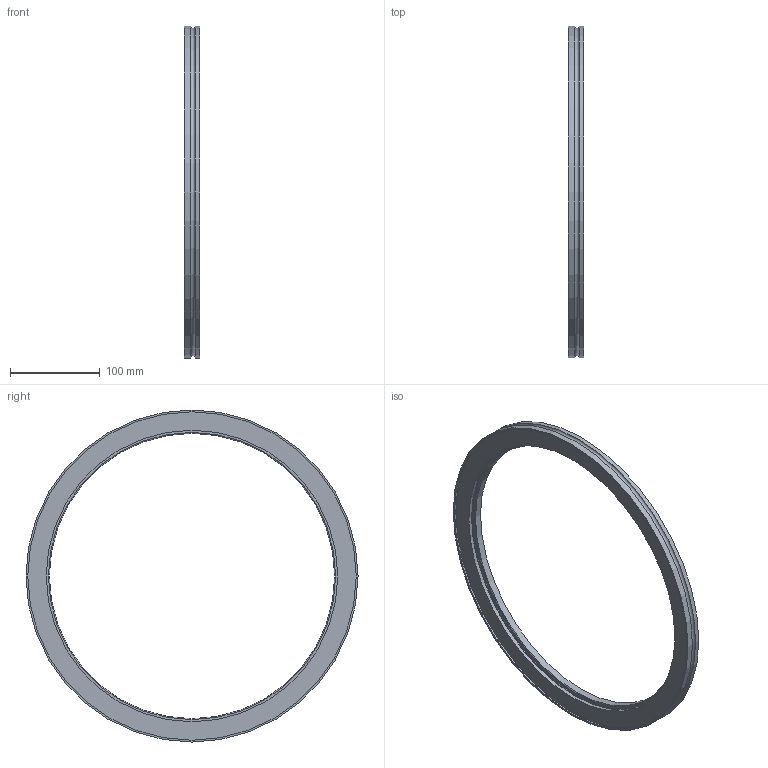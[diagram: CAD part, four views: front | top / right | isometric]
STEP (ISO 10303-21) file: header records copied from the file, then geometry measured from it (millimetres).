
FILE_DESCRIPTION((''),'2;1');
FILE_NAME('W:\212-036\212-036.stp','2005-09-06T14:43:26',('KAA'),(''),'Autodesk Inventor 10','Autodesk Inventor 10','');
FILE_SCHEMA(('CONFIG_CONTROL_DESIGN'));
Length unit declared in the file: millimetre
Products named in the file (1): 212-036
Bounding box: 17 x 370 x 370 mm (x, y, z)
Volume: 391025.7 mm3; surface area: 96957.6 mm2
Topology: 1 solids, 1 shells, 13 faces, 24 edges, 15 vertices
Faces by surface type: cylinder 5, plane 4, cone 2, torus 1, bspline 1
Full cylindrical faces by diameter (mm): 318 x1, 324.8 x1, 366 x1, 370 x2
Entity records: 421 total; most frequent: CARTESIAN_POINT 102, DIRECTION 52, AXIS2_PLACEMENT_3D 26, ORIENTED_EDGE 26, EDGE_LOOP 26, VERTEX_POINT 13, CIRCLE 13, EDGE_CURVE 13
